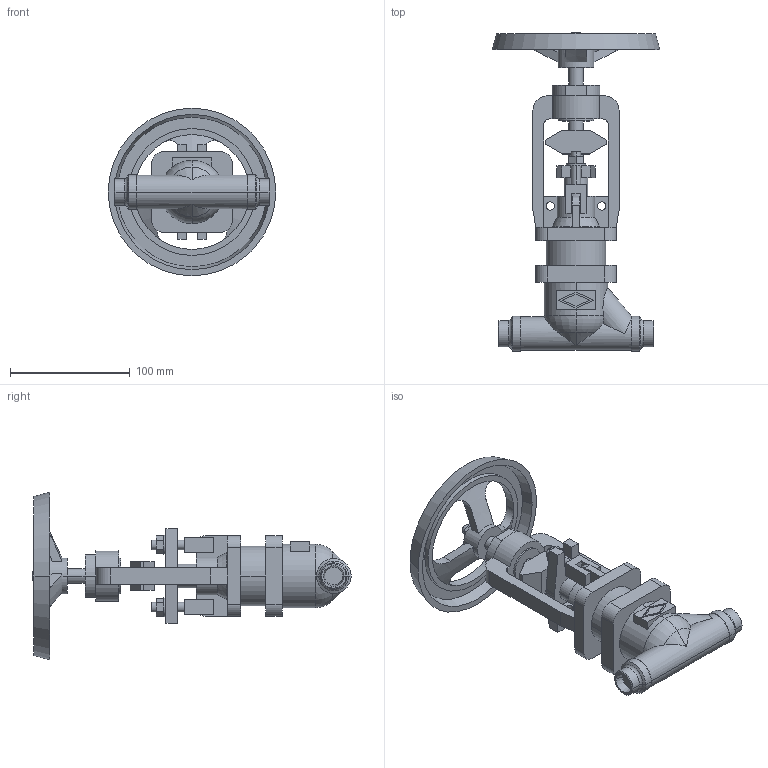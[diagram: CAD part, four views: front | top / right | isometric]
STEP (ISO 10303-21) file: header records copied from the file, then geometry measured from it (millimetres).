
FILE_DESCRIPTION(('OneSpaceDesigner STEP Export'),'2;1');
FILE_NAME('c000004308.stp','2010-05-06T 9:26:20',(''),(''),'OneSpace Designer STEP processor for AP214 (Solid Model)','OneSpace Modeling 15.50B 03-Nov-2007 (C) CoCreate Software GmbH','');
FILE_SCHEMA(('AUTOMOTIVE_DESIGN { 1 0 10303 214 1 1 1 1 }'));
Length unit declared in the file: millimetre
Products named in the file (1): 1
Bounding box: 140 x 265.9 x 140 mm (x, y, z)
Volume: 550442.3 mm3; surface area: 113828.5 mm2
Topology: 1 solids, 1 shells, 277 faces, 716 edges, 464 vertices
Faces by surface type: plane 147, cylinder 85, cone 34, torus 11
Entity records: 10509 total; most frequent: CARTESIAN_POINT 1853, ORIENTED_EDGE 1432, DIRECTION 1213, EDGE_CURVE 716, VERTEX_POINT 464, VECTOR 425, LINE 425, AXIS2_PLACEMENT_3D 394
